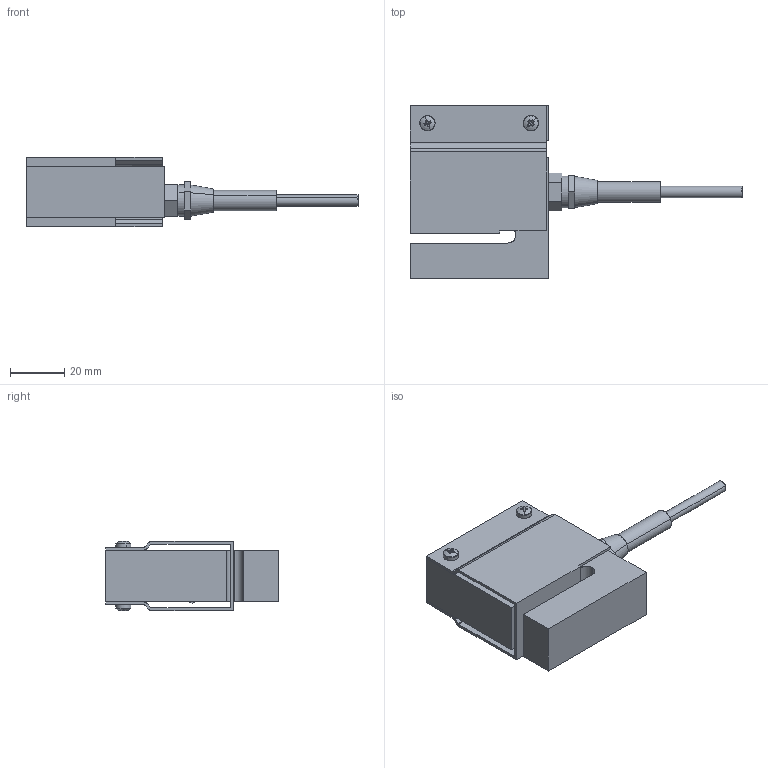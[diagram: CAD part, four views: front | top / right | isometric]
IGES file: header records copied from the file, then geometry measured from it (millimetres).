
Start section: SolidWorks IGES file using analytic representation for surfaces
Global section: file name: O:\16-Entwicklung\Projekte\03_Kraftsensoren\0225_KM1402\01_Mechanik & Gehäuse\01_Solid Works\01_Outline 3D files\3D_KM1402_500N_1kN.IGS; native system: SolidWorks 2012; preprocessor: SolidWorks 2012; author: AndreB; date: 131219.150336; units: metre
Bounding box: 121.9 x 63.5 x 25.61 mm (x, y, z)
Surface area: 23220.8 mm2 (no closed solid volume)
Topology: 0 solids, 0 shells, 225 faces, 1692 edges, 1684 vertices
Faces by surface type: bspline 146, revolution 79
